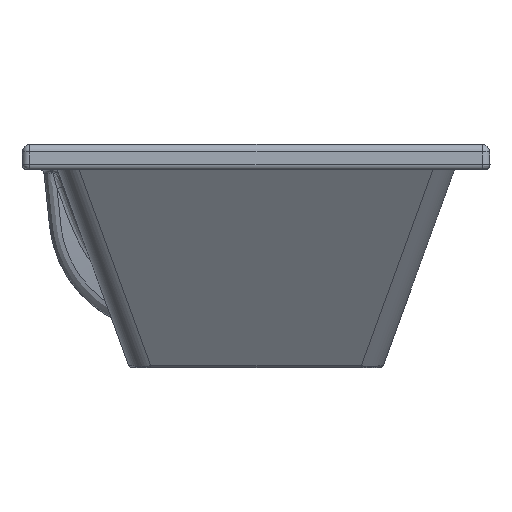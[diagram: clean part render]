
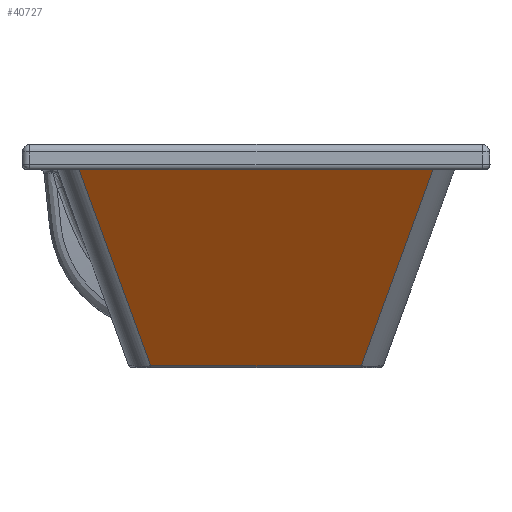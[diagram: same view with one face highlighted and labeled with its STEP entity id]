
A CAD part, left-side view. The second image highlights one B-rep face of the part: STEP entity #40727.
In plain terms, the highlighted planar face has unit normal (-0.829, 0, -0.559).
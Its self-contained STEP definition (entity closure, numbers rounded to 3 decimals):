
#687 = VECTOR ( 'NONE', #34911, 1000. ) ;
#1835 = CARTESIAN_POINT ( 'NONE',  ( -263.892, -200., -175.178 ) ) ;
#2093 = VERTEX_POINT ( 'NONE', #44255 ) ;
#2328 = VERTEX_POINT ( 'NONE', #25441 ) ;
#3669 = EDGE_LOOP ( 'NONE', ( #63691, #55246, #30739, #19464 ) ) ;
#5981 = CARTESIAN_POINT ( 'NONE',  ( -263.892, 83.268, -175.178 ) ) ;
#6541 = EDGE_CURVE ( 'NONE', #15226, #2328, #50488, .T. ) ;
#11881 = DIRECTION ( 'NONE',  ( 0., -1., 0. ) ) ;
#12759 = VECTOR ( 'NONE', #11881, 1000. ) ;
#15226 = VERTEX_POINT ( 'NONE', #50823 ) ;
#16325 = VERTEX_POINT ( 'NONE', #5981 ) ;
#17222 = EDGE_CURVE ( 'NONE', #2093, #16325, #21317, .T. ) ;
#19464 = ORIENTED_EDGE ( 'NONE', *, *, #17222, .F. ) ;
#20048 = PLANE ( 'NONE',  #20905 ) ;
#20905 = AXIS2_PLACEMENT_3D ( 'NONE', #55395, #39813, #30745 ) ;
#21317 = LINE ( 'NONE', #1835, #48675 ) ;
#22709 = LINE ( 'NONE', #24866, #687 ) ;
#24866 = CARTESIAN_POINT ( 'NONE',  ( -263.892, 83.268, -175.178 ) ) ;
#25441 = CARTESIAN_POINT ( 'NONE',  ( -373.739, -142.543, -12.322 ) ) ;
#30739 = ORIENTED_EDGE ( 'NONE', *, *, #48840, .F. ) ;
#30745 = DIRECTION ( 'NONE',  ( 0.559, 0., -0.829 ) ) ;
#34911 = DIRECTION ( 'NONE',  ( -0.535, 0.289, 0.794 ) ) ;
#35868 = CARTESIAN_POINT ( 'NONE',  ( -373.739, -200., -12.322 ) ) ;
#37948 = LINE ( 'NONE', #57438, #43104 ) ;
#39813 = DIRECTION ( 'NONE',  ( 0.829, 0., 0.559 ) ) ;
#40727 = ADVANCED_FACE ( 'NONE', ( #55067 ), #20048, .F. ) ;
#43104 = VECTOR ( 'NONE', #47382, 1000. ) ;
#44255 = CARTESIAN_POINT ( 'NONE',  ( -263.892, -83.268, -175.178 ) ) ;
#45490 = EDGE_CURVE ( 'NONE', #2328, #2093, #37948, .T. ) ;
#47382 = DIRECTION ( 'NONE',  ( 0.535, 0.289, -0.794 ) ) ;
#48675 = VECTOR ( 'NONE', #60890, 1000. ) ;
#48840 = EDGE_CURVE ( 'NONE', #16325, #15226, #22709, .T. ) ;
#50488 = LINE ( 'NONE', #35868, #12759 ) ;
#50823 = CARTESIAN_POINT ( 'NONE',  ( -373.739, 142.543, -12.322 ) ) ;
#55067 = FACE_OUTER_BOUND ( 'NONE', #3669, .T. ) ;
#55246 = ORIENTED_EDGE ( 'NONE', *, *, #6541, .F. ) ;
#55395 = CARTESIAN_POINT ( 'NONE',  ( -415.812, -200., 50.053 ) ) ;
#57438 = CARTESIAN_POINT ( 'NONE',  ( -421.187, -168.146, 58.022 ) ) ;
#60890 = DIRECTION ( 'NONE',  ( 0., 1., 0. ) ) ;
#63691 = ORIENTED_EDGE ( 'NONE', *, *, #45490, .F. ) ;
